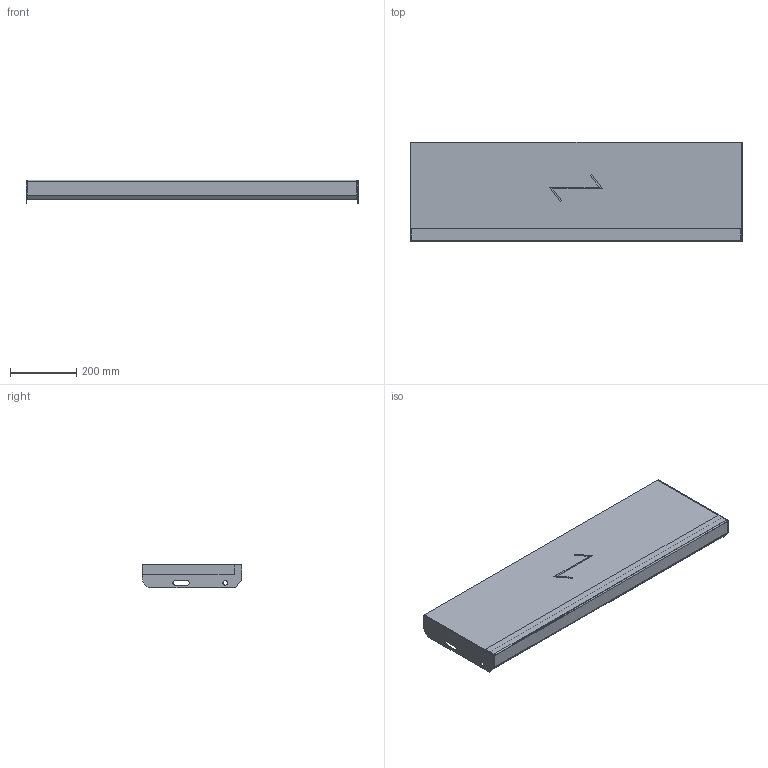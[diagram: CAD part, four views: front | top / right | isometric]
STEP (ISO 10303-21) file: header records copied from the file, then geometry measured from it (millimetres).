
FILE_DESCRIPTION (( 'STEP AP203' ), '1' );
FILE_NAME ('StegTH6-S-nya_steget-1000x300.STEP', '2020-03-04T07:44:44', ( '' ), ( '' ), 'SwSTEP 2.0', 'SolidWorks 2019', '' );
FILE_SCHEMA (( 'CONFIG_CONTROL_DESIGN' ));
Length unit declared in the file: millimetre
Products named in the file (5): SW0000039544; SW0000038703; SW0000039006; SW0000039246; StegTH6-S-nya_steget-1000x300
Assembly tree (5 placements, depth 3):
  StegTH6-S-nya_steget-1000x300
    SW0000039544
      SW0000039006
      SW0000039246
      SW0000038703  x2
Bounding box: 1000 x 300 x 72 mm (x, y, z)
Volume: 8573541.5 mm3; surface area: 910549.9 mm2
Topology: 4 solids, 4 shells, 67 faces, 158 edges, 100 vertices
Faces by surface type: plane 51, cylinder 16
Entity records: 2002 total; most frequent: DIRECTION 261, CARTESIAN_POINT 254, ORIENTED_EDGE 238, EDGE_CURVE 119, LINE 99, VECTOR 99, AXIS2_PLACEMENT_3D 81, VERTEX_POINT 74
